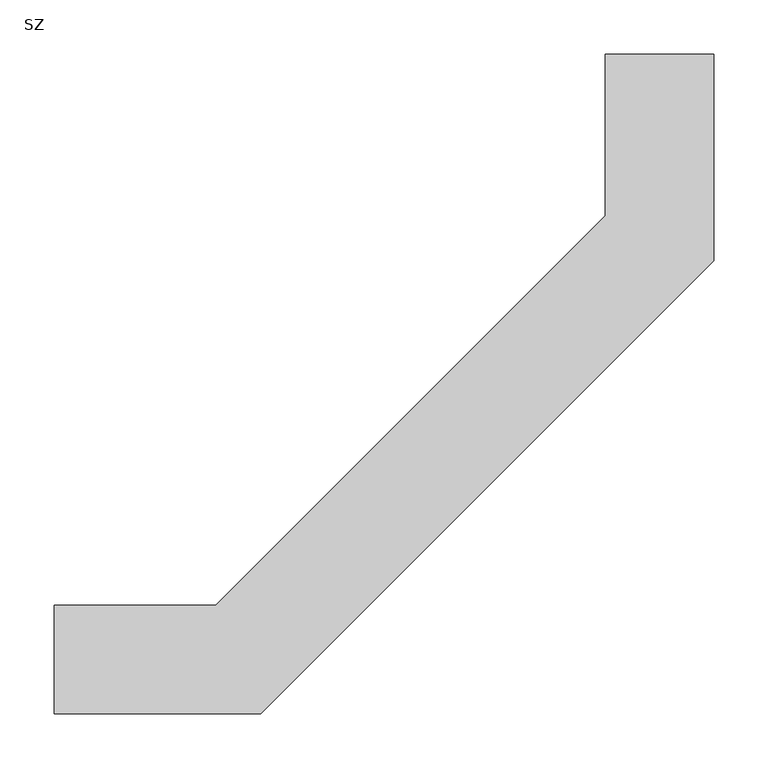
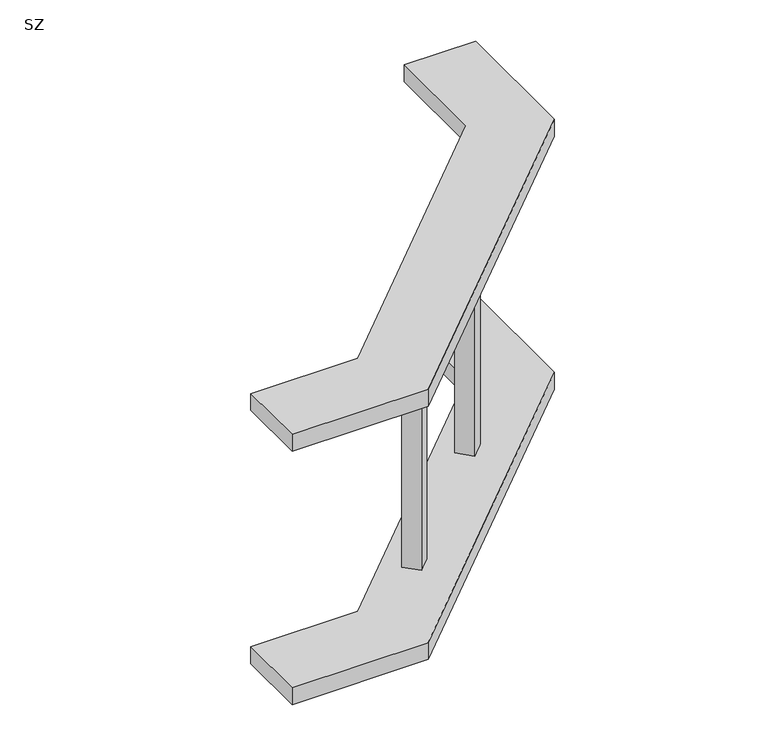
"""IFC4 building model written with IfcOpenShell, lengths in millimetres: cable carrier fitting geometry, IEK_Лестничный_Поворот шарнирный вертик внешн : SZ."""

from ifc_helpers import new_model, si_unit, frame, origin, place, context, project, spatial, polyline, outline, extrude, source, transform, mapped, element, save


def sz_de6e191f(model_context):
    return source(origin(), model_context, "Body", "SweptSolid", [
        extrude(outline(polyline([(-121.9759198, 263.397276), (-139.6535893, 281.0749455), (-121.9759198, 298.7526151), (-104.2982502, 281.0749455), (-121.9759198, 263.397276)])), frame((0.0, 0.0, -175.0), z_axis=(0.0, 0.0, 1.0), x_axis=(1.0, 0.0, 0.0)), (0.0, 0.0, 1.0), 350.0),
        extrude(outline(polyline([(-298.7526151, 86.6205807), (-316.4302846, 104.2982502), (-298.7526151, 121.9759198), (-281.0749455, 104.2982502), (-298.7526151, 86.6205807)])), frame((0.0, 0.0, -175.0), z_axis=(0.0, 0.0, 1.0), x_axis=(1.0, 0.0, 0.0)), (0.0, 0.0, 1.0), 350.0),
        extrude(outline(polyline([(-558.9087297, -50.0), (-558.9087297, 50.0), (-409.6194078, 50.0), (-50.0000972, 409.6193106), (-50.0007979, 558.908495), (49.9992021, 558.9089643), (50.0000972, 368.1981487), (-368.1980515, -50.0), (-558.9087297, -50.0)])), frame((0.0, 0.0, -200.0), z_axis=(0.0, 0.0, 1.0), x_axis=(1.0, 0.0, 0.0)), (0.0, 0.0, 1.0), 25.0),
        extrude(outline(polyline([(-558.9087297, -50.0), (-558.9087297, 50.0), (-409.6194078, 50.0), (-50.0000972, 409.6193106), (-50.0007979, 558.908495), (49.9992021, 558.9089643), (50.0000972, 368.1981487), (-368.1980515, -50.0), (-558.9087297, -50.0)])), frame((0.0, 0.0, 175.0), z_axis=(0.0, 0.0, 1.0), x_axis=(1.0, 0.0, 0.0)), (0.0, 0.0, 1.0), 25.0),
    ])


if __name__ == "__main__":
    model = new_model("IFC4")
    model_context = context("Model", 3, world=origin())
    ifc_project = project(units=[si_unit("LENGTHUNIT", "METRE", prefix="MILLI")], contexts=[model_context])
    site = spatial("IfcSite", under=ifc_project)
    building = spatial("IfcBuilding", under=site)
    placement = place(None, origin())
    sz_shape = sz_de6e191f(model_context)
    element("IfcCableCarrierFitting", 1, ObjectType="IEK_Лестничный_Поворот шарнирный вертик внешн : SZ", at=placement, inside=building, context=model_context, shape_type="MappedRepresentation", body=[
        mapped(sz_shape, transform((0.0, 0.0, 0.0), x_axis=(1.0, 0.0, 0.0), y_axis=(0.0, 1.0, 0.0), z_axis=(0.0, 0.0, 1.0))),
    ])
    save(model, "model.ifc")
